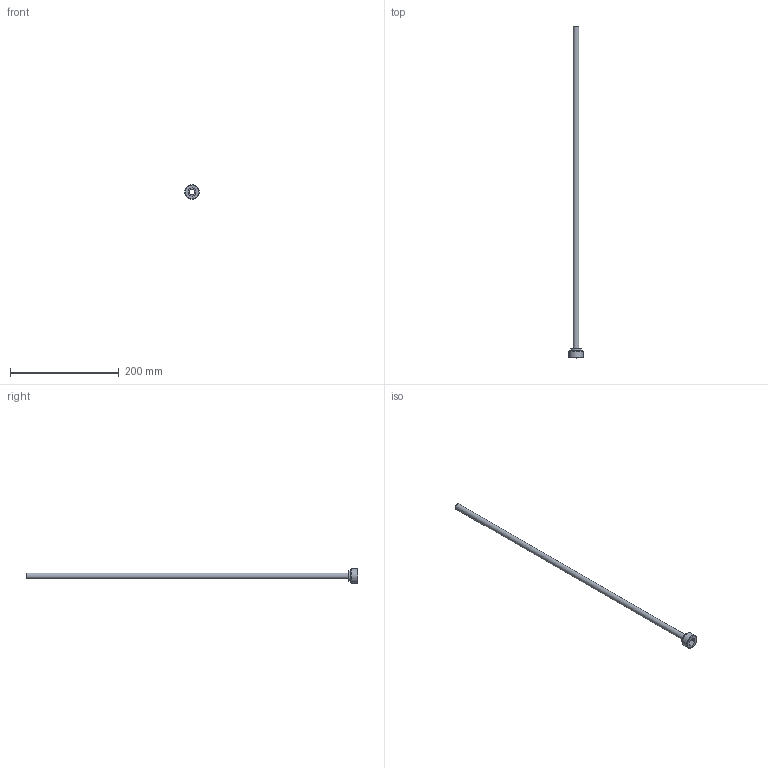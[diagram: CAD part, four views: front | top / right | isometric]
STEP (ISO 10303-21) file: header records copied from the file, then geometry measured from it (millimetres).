
FILE_DESCRIPTION(/* description */ (''),/* implementation_level */ '2;1');
FILE_NAME(/* name */ 'C:/Users/drich/Desktop/PT34-437-24 v2.step',/* time_stamp */ '2019-12-27T15:47:26-06:00',/* author */ (''),/* organization */ (''),/* preprocessor_version */ 'ST-DEVELOPER v18',/* originating_system */ 'Autodesk Translation Framework v8.12.0.6',/* authorisation */ '');
FILE_SCHEMA (('AUTOMOTIVE_DESIGN { 1 0 10303 214 3 1 1 }'));
Length unit declared in the file: inch
Products named in the file (1): PT34-437-24
Bounding box: 26.3 x 609.6 x 26.3 mm (x, y, z)
Volume: 12799 mm3; surface area: 41806.8 mm2
Topology: 1 solids, 1 shells, 19 faces, 48 edges, 34 vertices
Faces by surface type: plane 11, cylinder 4, torus 2, cone 2
Full cylindrical faces by diameter (mm): 10.084 x1, 10.82 x1, 19.05 x1, 26.299 x1
Entity records: 633 total; most frequent: DIRECTION 112, CARTESIAN_POINT 102, ORIENTED_EDGE 96, EDGE_CURVE 48, AXIS2_PLACEMENT_3D 44, VERTEX_POINT 34, CIRCLE 24, EDGE_LOOP 24
